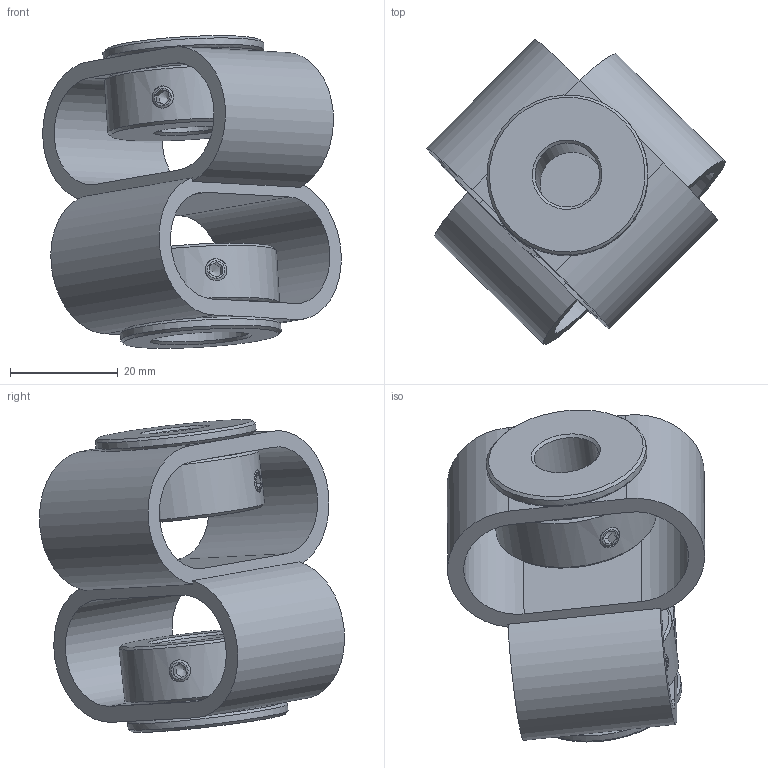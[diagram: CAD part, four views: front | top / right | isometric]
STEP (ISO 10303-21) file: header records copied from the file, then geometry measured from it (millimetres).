
FILE_DESCRIPTION(/* description */ (''),/* implementation_level */ '2;1');
FILE_NAME(/* name */ 'E:\ABP_bauteile\Doppelschlaufenkupplung\DKPS_5658\Doppelschlaufenkupplung_DKPS_5658_12_18.stp',/* time_stamp */ '2015-03-13T11:34:22+01:00',/* author */ ('Rob'),/* organization */ (''),/* preprocessor_version */ 'ST-DEVELOPER v15.6',/* originating_system */ 'Autodesk Inventor 2015',/* authorisation */ '');
FILE_SCHEMA (('CONFIG_CONTROL_DESIGN'));
Length unit declared in the file: millimetre
Products named in the file (1): Bauteil44
Bounding box: 55.53 x 56.74 x 58.16 mm (x, y, z)
Volume: 30711.4 mm3; surface area: 18082.2 mm2
Topology: 1 solids, 1 shells, 142 faces, 360 edges, 218 vertices
Faces by surface type: plane 84, cone 30, cylinder 28
Full cylindrical faces by diameter (mm): 4.134 x8, 12 x1, 18 x1, 21.5 x2, 23 x4, 30 x4
Entity records: 4088 total; most frequent: CARTESIAN_POINT 1027, DIRECTION 646, ORIENTED_EDGE 556, EDGE_CURVE 278, AXIS2_PLACEMENT_3D 257, EDGE_LOOP 210, VERTEX_POINT 182, FACE_OUTER_BOUND 142
